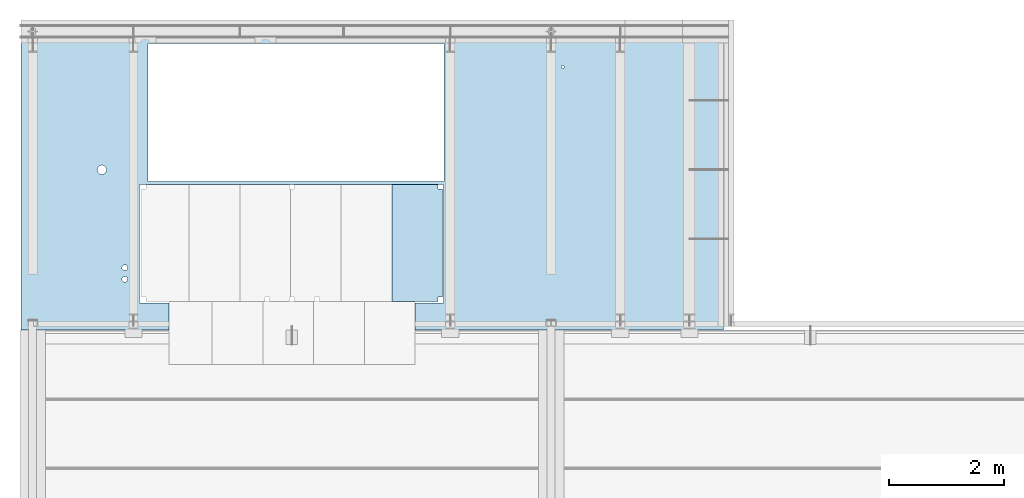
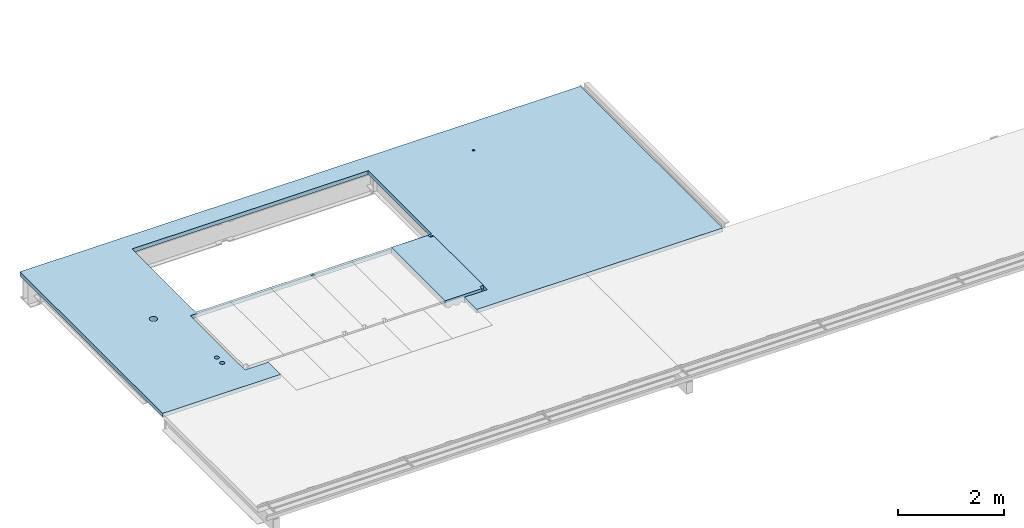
# One storey, part 12 of 13: 2 slabs.
"""IFC2X3 building model written with IfcOpenShell, lengths in millimetres."""

import ifcopenshell
import ifcopenshell.guid

model = None  # the IFC model being written
_history = None  # IfcOwnerHistory: only IFC2X3 demands one
_inside = {}  # id of a spatial element -> (the spatial element, [elements in it])
_under = {}  # id of a project, library or spatial element -> (it, [spatial elements below it])
_declared = {}  # id of a project -> (the project, [libraries it declares])
_typed = {}  # id of a type object -> (the type object, [elements of that type])
_made_of = {}  # id of a material, layer set ... -> (it, [elements and type objects made of it])


def new_model(schema):
    """Start an empty IFC model of exactly this schema.

    Asked for "IFC4X3", IfcOpenShell would pick the latest addendum, in which some entities
    have other attributes; the version numbers below select the first issue.
    IFC2X3 requires an IfcOwnerHistory on every rooted entity: one is made here for all.
    """
    global model, _history
    if schema == "IFC4X3":
        model = ifcopenshell.file(schema_version=(4, 3, 0, 0))
    else:
        model = ifcopenshell.file(schema=schema)
    _inside.clear()
    _under.clear()
    _declared.clear()
    _typed.clear()
    _made_of.clear()
    _history = None
    if model.schema == "IFC2X3":
        org = make("IfcOrganization", Name="unknown")
        user = make(
            "IfcPersonAndOrganization",
            ThePerson=make("IfcPerson", FamilyName="unknown"),
            TheOrganization=org,
        )
        app = make(
            "IfcApplication",
            ApplicationDeveloper=org,
            Version="unknown",
            ApplicationFullName="unknown",
            ApplicationIdentifier="unknown",
        )
        _history = make(
            "IfcOwnerHistory",
            OwningUser=user,
            OwningApplication=app,
            ChangeAction="ADDED",
            CreationDate=0,
        )
    return model


def make(cls, **values):
    """One entity of the class cls with the attributes given. An attribute that is None is left unset."""
    return model.create_entity(
        cls, **{name: value for name, value in values.items() if value is not None}
    )


def entity(cls, *values):
    """Any entity or typed value of the class cls, its attributes in the order of the schema. None: left unset."""
    e = model.create_entity(cls)
    for i, value in enumerate(values):
        if value is not None:
            e[i] = value
    return e


def rooted(cls, **values):
    """An entity with a GlobalId (a new one), such as an element, a storey or a relation."""
    return make(cls, GlobalId=ifcopenshell.guid.new(), OwnerHistory=_history, **values)


def si_unit(unit_type, name, prefix=None):
    """IfcSIUnit, for example si_unit("LENGTHUNIT", "METRE", prefix="MILLI")."""
    return make("IfcSIUnit", UnitType=unit_type, Prefix=prefix, Name=name)


def converted_unit(unit_type, name, factor, base, dimensions=None, offset=None):
    """IfcConversionBasedUnit, such as the inch: factor (a typed value) times the base unit."""
    return make(
        "IfcConversionBasedUnit"
        if offset is None
        else "IfcConversionBasedUnitWithOffset",
        ConversionOffset=offset,
        Dimensions=None
        if dimensions is None
        else entity("IfcDimensionalExponents", *dimensions),
        UnitType=unit_type,
        Name=name,
        ConversionFactor=make(
            "IfcMeasureWithUnit", ValueComponent=factor, UnitComponent=base
        ),
    )


def derived_unit(unit_type, elements):
    """IfcDerivedUnit: a product of units, each with its exponent."""
    return make(
        "IfcDerivedUnit",
        Elements=[
            make("IfcDerivedUnitElement", Unit=unit, Exponent=power)
            for unit, power in elements
        ],
        UnitType=unit_type,
    )


def assignment(units):
    """IfcUnitAssignment: the units of a project."""
    return None if units is None else make("IfcUnitAssignment", Units=units)


def point(xyz):
    """IfcCartesianPoint."""
    return None if xyz is None else make("IfcCartesianPoint", Coordinates=xyz)


def direction(xyz):
    """IfcDirection."""
    return None if xyz is None else make("IfcDirection", DirectionRatios=xyz)


def frame(location, z_axis=None, x_axis=None):
    """IfcAxis2Placement3D, a coordinate frame: its origin and axes. An axis left out is left unset."""
    return make(
        "IfcAxis2Placement3D",
        Location=point(location),
        Axis=direction(z_axis),
        RefDirection=direction(x_axis),
    )


def origin_with_axes():
    """The frame at (0, 0, 0) with the z axis (0, 0, 1) and the x axis (1, 0, 0) written out."""
    return frame((0.0, 0.0, 0.0), z_axis=(0.0, 0.0, 1.0), x_axis=(1.0, 0.0, 0.0))


def place(relative_to, where):
    """IfcLocalPlacement: puts the frame where relative to a parent placement (None: the world)."""
    return make(
        "IfcLocalPlacement", PlacementRelTo=relative_to, RelativePlacement=where
    )


def context(
    kind, dimensions, precision=None, world=None, true_north=None, identifier=None
):
    """IfcGeometricRepresentationContext, for example the 3D "Model" context."""
    return make(
        "IfcGeometricRepresentationContext",
        ContextIdentifier=identifier,
        ContextType=kind,
        CoordinateSpaceDimension=dimensions,
        Precision=precision,
        WorldCoordinateSystem=world,
        TrueNorth=true_north,
    )


def subcontext(parent, identifier, kind, view, scale=None):
    """IfcGeometricRepresentationSubContext, for example "Body" below "Model"."""
    return make(
        "IfcGeometricRepresentationSubContext",
        ContextIdentifier=identifier,
        ContextType=kind,
        ParentContext=parent,
        TargetScale=scale,
        TargetView=view,
    )


def project(units=None, contexts=None):
    """IfcProject with its units and contexts."""
    return rooted(
        "IfcProject",
        Name="project",
        RepresentationContexts=contexts,
        UnitsInContext=assignment(units),
    )


def spatial(cls, under=None, at=None, **own):
    """A site, building, storey or space (cls), placed at a placement, below another one or the project."""
    s = rooted(cls, ObjectPlacement=at, **own)
    if under is not None:
        _under.setdefault(under.id(), (under, []))[1].append(s)
    return s


def faces_of(points, faces, orient=None, outer=None):
    """IfcFace entities. A face is a list of loops; a loop is a list of indices into points, from 0.

    orient and outer hold one flag for each loop. By default every Orientation is true, the
    first loop of a face is its IfcFaceOuterBound and the others are IfcFaceBound.
    """
    made = []
    for i, loops in enumerate(faces):
        bounds = []
        for j, loop in enumerate(loops):
            is_outer = j == 0 if outer is None else outer[i][j]
            bounds.append(
                make(
                    "IfcFaceOuterBound" if is_outer else "IfcFaceBound",
                    Bound=make("IfcPolyLoop", Polygon=[points[k] for k in loop]),
                    Orientation=True if orient is None else orient[i][j],
                )
            )
        made.append(make("IfcFace", Bounds=bounds))
    return made


def faceted_brep(points, faces, orient=None, outer=None, voids=None):
    """IfcFacetedBrep: a solid bounded by flat faces; with voids (closed shells), ...WithVoids."""
    shared = [point(p) for p in points]
    hull = make("IfcClosedShell", CfsFaces=faces_of(shared, faces, orient, outer))
    if voids is None:
        return make("IfcFacetedBrep", Outer=hull)
    return make(
        "IfcFacetedBrepWithVoids",
        Outer=hull,
        Voids=[
            make(cls, CfsFaces=faces_of(shared, fs, o, b)) for cls, fs, o, b in voids
        ],
    )


def shape(context_of_items, identifier, shape_type, items):
    """IfcShapeRepresentation: the items that make up one representation, for example the "Body"."""
    return make(
        "IfcShapeRepresentation",
        ContextOfItems=context_of_items,
        RepresentationIdentifier=identifier,
        RepresentationType=shape_type,
        Items=items,
    )


def material(Name=None, Category=None):
    """IfcMaterial."""
    return make("IfcMaterial", Name=Name, Category=Category)


def made_of(thing, what):
    """Note that an element or type object is made of a material, layer set ...; save() writes the relation."""
    if what is not None:
        _made_of.setdefault(what.id(), (what, []))[1].append(thing)
    return thing


def type_object(cls, material=None, **own):
    """A type object (cls), such as IfcWallType, which elements share."""
    return made_of(rooted(cls, **own), material)


def element(
    cls,
    number,
    at=None,
    inside=None,
    cuts=None,
    type_object=None,
    material=None,
    context=None,
    identifier="Body",
    shape_type=None,
    held_by="IfcProductDefinitionShape",
    body=None,
    shapes=None,
    **own,
):
    """One element of the class cls, such as IfcWall. Its Tag is "e" and its number.

    at: its placement. inside: the storey or other place that contains it. cuts: it is an
    opening in that element (IfcRelVoidsElement). A single representation is given by context,
    identifier, shape_type and body (its items); several are given by shapes. held_by: the class
    of the entity that holds the representations. save() writes the other relations.
    """
    e = rooted(cls, Tag="e%d" % number, ObjectPlacement=at, **own)
    if body is not None:
        shapes = [shape(context, identifier, shape_type, body)]
    if shapes is not None:
        e.Representation = make(held_by, Representations=shapes)
    if inside is not None:
        _inside.setdefault(inside.id(), (inside, []))[1].append(e)
    if cuts is not None:
        rooted(
            "IfcRelVoidsElement", RelatingBuildingElement=cuts, RelatedOpeningElement=e
        )
    if type_object is not None:
        _typed.setdefault(type_object.id(), (type_object, []))[1].append(e)
    return made_of(e, material)


def aggregate(whole, parts):
    """IfcRelAggregates: a whole, such as a stair, and the parts it consists of."""
    return rooted("IfcRelAggregates", RelatingObject=whole, RelatedObjects=parts)


def save(model, path):
    """Write the relations noted so far, then the file.

    IfcRelAggregates (storeys below a building ...), IfcRelContainedInSpatialStructure (elements
    in a storey), IfcRelDefinesByType, IfcRelAssociatesMaterial and IfcRelDeclares: one each for
    every whole, place, type object, material and project.
    """
    for whole, parts in _under.values():
        aggregate(whole, parts)
    for where, things in _inside.values():
        rooted(
            "IfcRelContainedInSpatialStructure",
            RelatedElements=things,
            RelatingStructure=where,
        )
    for kind, things in _typed.values():
        rooted("IfcRelDefinesByType", RelatedObjects=things, RelatingType=kind)
    for what, things in _made_of.values():
        rooted("IfcRelAssociatesMaterial", RelatedObjects=things, RelatingMaterial=what)
    for by, libraries in _declared.values():
        rooted("IfcRelDeclares", RelatingContext=by, RelatedDefinitions=libraries)
    model.write(path)


model = new_model("IFC2X3")

# Units and contexts
model_context = context("Model", 3, precision=0.01, world=frame((0.0, 4.29681676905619e-09, 0.0)), true_north=direction((4.01073788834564e-13, 1.0)))
plan_context = context("Plan", 3, precision=0.01, world=frame((0.0, 4.29681676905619e-09, 0.0)), true_north=direction((4.01073788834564e-13, 1.0)))
body_context = subcontext(model_context, "Body", "Model", "MODEL_VIEW")
ifc_project = project(units=[converted_unit("PLANEANGLEUNIT", "DEGREE", entity("IfcPositiveLengthMeasure", 0.0174532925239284), si_unit("PLANEANGLEUNIT", "RADIAN"), dimensions=[0, 0, 0, 0, 0, 0, 0]), si_unit("AREAUNIT", "SQUARE_METRE"), si_unit("LENGTHUNIT", "METRE", prefix="MILLI"), si_unit("MASSUNIT", "GRAM", prefix="KILO"), si_unit("POWERUNIT", "WATT"), si_unit("PRESSUREUNIT", "PASCAL", prefix="KILO"), si_unit("FORCEUNIT", "NEWTON", prefix="KILO"), si_unit("ELECTRICVOLTAGEUNIT", "VOLT"), si_unit("ELECTRICCURRENTUNIT", "AMPERE"), si_unit("THERMODYNAMICTEMPERATUREUNIT", "DEGREE_CELSIUS"), si_unit("TIMEUNIT", "SECOND"), si_unit("VOLUMEUNIT", "CUBIC_METRE"), derived_unit("LINEARVELOCITYUNIT", [(si_unit("LENGTHUNIT", "METRE"), 1), (si_unit("TIMEUNIT", "SECOND"), -1)]), derived_unit("VOLUMETRICFLOWRATEUNIT", [(si_unit("VOLUMEUNIT", "CUBIC_METRE"), 1), (si_unit("TIMEUNIT", "SECOND"), -1)]), derived_unit("THERMALTRANSMITTANCEUNIT", [(si_unit("POWERUNIT", "WATT"), 1), (si_unit("THERMODYNAMICTEMPERATUREUNIT", "KELVIN"), -1), (si_unit("AREAUNIT", "SQUARE_METRE"), -1)]), derived_unit("SOUNDPRESSUREUNIT", [(si_unit("PRESSUREUNIT", "PASCAL"), 1)])], contexts=[model_context, plan_context])

# Site, building, storey
site_placement = place(None, frame((0.0, -4.29681676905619e-09, 0.0), z_axis=(0.0, 0.0, 1.0), x_axis=(1.0, 0.0, 0.0)))
site = spatial("IfcSite", under=ifc_project, at=site_placement, Name="Gardermoen", CompositionType="ELEMENT")
building_placement = place(site_placement, frame((0.0, 4.29681676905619e-09, 0.0), z_axis=(0.0, 0.0, 1.0), x_axis=(1.0, 0.0, 0.0)))
building = spatial("IfcBuilding", under=site, at=building_placement, Name="TG", CompositionType="ELEMENT")
storey_placement = place(building_placement, origin_with_axes())
storey = spatial("IfcBuildingStorey", under=building, at=storey_placement, Name="G", CompositionType="ELEMENT", Elevation=0.0)

# Slabs
slab_type_1 = type_object("IfcSlabType", Name="90*14990", PredefinedType="NOTDEFINED")
slab_1_placement = place(storey_placement, frame((333994.999765, 480879.98877, 213615.0), z_axis=(-1.0, 0.0, 0.0), x_axis=(0.0, -1.0, 0.0)))
element("IfcSlab", 1, at=slab_1_placement, inside=storey, type_object=slab_type_1, Name="PÅSTØP", ObjectType="90*14990", PredefinedType="FLOOR", context=body_context, shape_type="Brep", body=[
    faceted_brep([(16049.2720323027, -45.0, 10755.0001604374), (16049.2720323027, 45.0, 10755.0001604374), (16057.264066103, 45.0, 10774.2946368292), (16057.264066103, -45.0, 10774.2946368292), (16059.9899999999, 45.0, 10795.0001604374), (16059.9899999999, -45.0, 10795.0001604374), (16057.264066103, 45.0, 10815.7056840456), (16057.264066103, -45.0, 10815.7056840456), (16049.2720323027, 45.0, 10835.0001604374), (16049.2720323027, -45.0, 10835.0001604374), (16036.5585424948, 45.0, 10851.5687029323), (16036.5585424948, -45.0, 10851.5687029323), (16019.9899999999, 45.0, 10864.2821927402), (16019.9899999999, -45.0, 10864.2821927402), (16000.6955236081, 45.0, 10872.2742265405), (16000.6955236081, -45.0, 10872.2742265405), (15979.9899999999, 45.0, 10875.0001604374), (15979.9899999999, -45.0, 10875.0001604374), (15959.2844763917, 45.0, 10872.2742265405), (15959.2844763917, -45.0, 10872.2742265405), (15939.9899999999, 45.0, 10864.2821927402), (15939.9899999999, -45.0, 10864.2821927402), (15923.421457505, 45.0, 10851.5687029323), (15923.421457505, -45.0, 10851.5687029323), (15910.7079676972, 45.0, 10835.0001604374), (15910.7079676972, -45.0, 10835.0001604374), (15902.7159338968, 45.0, 10815.7056840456), (15902.7159338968, -45.0, 10815.7056840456), (15899.9899999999, 45.0, 10795.0001604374), (15899.9899999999, -45.0, 10795.0001604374), (15902.7159338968, 45.0, 10774.2946368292), (15902.7159338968, -45.0, 10774.2946368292), (15910.7079676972, 45.0, 10755.0001604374), (15910.7079676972, -45.0, 10755.0001604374), (15923.421457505, 45.0, 10738.4316179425), (15923.421457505, -45.0, 10738.4316179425), (15939.9899999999, 45.0, 10725.7181281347), (15939.9899999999, -45.0, 10725.7181281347), (15959.2844763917, 45.0, 10717.7260943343), (15959.2844763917, -45.0, 10717.7260943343), (15979.9899999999, 45.0, 10715.0001604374), (15979.9899999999, -45.0, 10715.0001604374), (16000.6955236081, 45.0, 10717.7260943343), (16000.6955236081, -45.0, 10717.7260943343), (16019.9899999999, 45.0, 10725.7181281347), (16019.9899999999, -45.0, 10725.7181281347), (16036.5585424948, 45.0, 10738.4316179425), (16036.5585424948, -45.0, 10738.4316179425), (18759.9761291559, -45.0, 12200.249764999), (18759.974972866, 45.0, 12200.249764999), (18759.9753077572, 45.0, 9629.99979434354), (18759.9775293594, -45.0, 9629.99979434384), (13379.9887700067, 45.0, 0.0), (13379.9887700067, -45.0, 0.0), (18759.9765625, -45.0, 0.0), (18759.9765625, 45.0, 0.0), (18759.975864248, -45.0, 5359.00000796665), (18759.975864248, 45.0, 5359.00000796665), (18294.9733789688, -45.0, 5358.99808535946), (18294.9733789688, 45.0, 5358.99808535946), (18294.9733789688, -45.0, 4859.99051700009), (18294.9733789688, 45.0, 4859.99051700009), (16234.985586, -45.0, 4859.99051700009), (16234.985586, 45.0, 4859.99051700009), (16234.985586, -45.0, 10139.9905170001), (16234.985586, 45.0, 10139.9905170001), (18294.9733789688, -45.0, 10139.9905170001), (18294.9733789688, 45.0, 10139.9905170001), (18294.9733789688, -45.0, 9629.99979434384), (18294.9733789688, 45.0, 9629.99979434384), (16185.3637689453, -45.0, 9995.2647472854), (16185.3637689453, 45.0, 9995.2647472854), (13786.0107085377, 45.0, 9995.26445366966), (13786.0107085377, -45.0, 9995.26445366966), (13785.1592155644, 45.0, 4851.25554033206), (13785.1592155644, -45.0, 4851.25554033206), (16184.5122758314, 45.0, 4851.25554030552), (16184.5122758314, -45.0, 4851.25554030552), (14219.9893542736, -45.0, 2794.99541461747), (14219.9893542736, 45.0, 2794.99541461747), (14218.0863425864, 45.0, 2804.5625004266), (14218.0863425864, -45.0, 2804.5625004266), (14218.0863425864, -45.0, 2785.42832880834), (14218.0863425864, 45.0, 2785.42832880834), (14212.6670238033, -45.0, 2777.31774508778), (14212.6670238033, 45.0, 2777.31774508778), (14204.5564400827, -45.0, 2771.89842630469), (14204.5564400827, 45.0, 2771.89842630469), (14194.9893542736, -45.0, 2769.99541461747), (14194.9893542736, 45.0, 2769.99541461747), (14185.4222684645, -45.0, 2771.89842630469), (14185.4222684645, 45.0, 2771.89842630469), (14177.3116847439, -45.0, 2777.31774508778), (14177.3116847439, 45.0, 2777.31774508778), (14171.8923659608, -45.0, 2785.42832880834), (14171.8923659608, 45.0, 2785.42832880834), (14169.9893542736, -45.0, 2794.99541461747), (14169.9893542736, 45.0, 2794.99541461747), (14171.8923659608, -45.0, 2804.5625004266), (14171.8923659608, 45.0, 2804.5625004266), (14177.3116847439, -45.0, 2812.67308414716), (14177.3116847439, 45.0, 2812.67308414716), (14185.4222684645, -45.0, 2818.09240293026), (14185.4222684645, 45.0, 2818.09240293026), (14194.9893542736, -45.0, 2819.99541461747), (14194.9893542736, 45.0, 2819.99541461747), (14204.5564400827, -45.0, 2818.09240293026), (14204.5564400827, 45.0, 2818.09240293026), (14212.6670238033, -45.0, 2812.67308414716), (14212.6670238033, 45.0, 2812.67308414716), (17929.9899999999, -45.0, 10395.0001604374), (17929.9899999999, 45.0, 10395.0001604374), (17927.5428258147, 45.0, 10410.4510101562), (17927.5428258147, -45.0, 10410.4510101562), (17927.5428258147, -45.0, 10379.5493107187), (17927.5428258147, 45.0, 10379.5493107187), (17920.4408497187, -45.0, 10365.6108978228), (17920.4408497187, 45.0, 10365.6108978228), (17909.3792626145, -45.0, 10354.5493107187), (17909.3792626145, 45.0, 10354.5493107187), (17895.4408497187, -45.0, 10347.4473346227), (17895.4408497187, 45.0, 10347.4473346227), (17879.9899999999, -45.0, 10345.0001604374), (17879.9899999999, 45.0, 10345.0001604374), (17864.5391502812, -45.0, 10347.4473346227), (17864.5391502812, 45.0, 10347.4473346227), (17850.6007373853, -45.0, 10354.5493107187), (17850.6007373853, 45.0, 10354.5493107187), (17839.5391502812, -45.0, 10365.6108978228), (17839.5391502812, 45.0, 10365.6108978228), (17832.4371741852, -45.0, 10379.5493107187), (17832.4371741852, 45.0, 10379.5493107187), (17829.9899999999, -45.0, 10395.0001604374), (17829.9899999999, 45.0, 10395.0001604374), (17832.4371741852, -45.0, 10410.4510101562), (17832.4371741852, 45.0, 10410.4510101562), (17839.5391502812, -45.0, 10424.389423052), (17839.5391502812, 45.0, 10424.389423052), (17850.6007373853, -45.0, 10435.4510101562), (17850.6007373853, 45.0, 10435.4510101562), (17864.5391502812, -45.0, 10442.5529862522), (17864.5391502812, 45.0, 10442.5529862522), (17879.9899999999, -45.0, 10445.0001604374), (17879.9899999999, 45.0, 10445.0001604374), (17895.4408497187, -45.0, 10442.5529862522), (17895.4408497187, 45.0, 10442.5529862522), (17909.3792626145, -45.0, 10435.4510101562), (17909.3792626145, 45.0, 10435.4510101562), (17920.4408497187, -45.0, 10424.389423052), (17920.4408497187, 45.0, 10424.389423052), (13379.9887700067, -45.0, 12200.249764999), (17727.5428258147, -45.0, 10379.5493107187), (17729.9899999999, -45.0, 10395.0001604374), (17727.5428258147, -45.0, 10410.4510101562), (17720.4408497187, -45.0, 10424.389423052), (17709.3792626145, -45.0, 10435.4510101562), (17695.4408497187, -45.0, 10442.5529862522), (17679.9899999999, -45.0, 10445.0001604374), (17664.5391502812, -45.0, 10442.5529862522), (17650.6007373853, -45.0, 10435.4510101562), (17639.5391502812, -45.0, 10424.389423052), (17632.4371741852, -45.0, 10410.4510101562), (17629.9899999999, -45.0, 10395.0001604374), (17632.4371741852, -45.0, 10379.5493107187), (17639.5391502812, -45.0, 10365.6108978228), (17650.6007373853, -45.0, 10354.5493107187), (17664.5391502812, -45.0, 10347.4473346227), (17679.9899999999, -45.0, 10345.0001604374), (17695.4408497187, -45.0, 10347.4473346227), (17709.3792626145, -45.0, 10354.5493107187), (17720.4408497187, -45.0, 10365.6108978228), (17727.5428258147, 45.0, 10410.4510101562), (17720.4408497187, 45.0, 10424.389423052), (17729.9899999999, 45.0, 10395.0001604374), (17727.5428258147, 45.0, 10379.5493107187), (17720.4408497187, 45.0, 10365.6108978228), (17709.3792626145, 45.0, 10354.5493107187), (17695.4408497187, 45.0, 10347.4473346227), (17679.9899999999, 45.0, 10345.0001604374), (17664.5391502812, 45.0, 10347.4473346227), (17650.6007373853, 45.0, 10354.5493107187), (17639.5391502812, 45.0, 10365.6108978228), (17632.4371741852, 45.0, 10379.5493107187), (17629.9899999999, 45.0, 10395.0001604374), (17632.4371741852, 45.0, 10410.4510101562), (17639.5391502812, 45.0, 10424.389423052), (17650.6007373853, 45.0, 10435.4510101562), (17664.5391502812, 45.0, 10442.5529862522), (17679.9899999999, 45.0, 10445.0001604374), (17695.4408497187, 45.0, 10442.5529862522), (17709.3792626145, 45.0, 10435.4510101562), (13379.9887700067, 45.0, 12200.249764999)], [[[0, 1, 2, 3]], [[3, 2, 4, 5]], [[5, 4, 6, 7]], [[7, 6, 8, 9]], [[9, 8, 10, 11]], [[11, 10, 12, 13]], [[13, 12, 14, 15]], [[15, 14, 16, 17]], [[17, 16, 18, 19]], [[19, 18, 20, 21]], [[21, 20, 22, 23]], [[23, 22, 24, 25]], [[25, 24, 26, 27]], [[27, 26, 28, 29]], [[29, 28, 30, 31]], [[31, 30, 32, 33]], [[33, 32, 34, 35]], [[35, 34, 36, 37]], [[37, 36, 38, 39]], [[39, 38, 40, 41]], [[41, 40, 42, 43]], [[43, 42, 44, 45]], [[45, 44, 46, 47]], [[47, 46, 1, 0]], [[48, 49, 50, 51]], [[52, 53, 54, 55]], [[56, 57, 55, 54]], [[58, 59, 57, 56]], [[60, 61, 59, 58]], [[62, 63, 61, 60]], [[64, 65, 63, 62]], [[66, 67, 65, 64]], [[68, 69, 67, 66]], [[50, 69, 68, 51]], [[70, 71, 72, 73]], [[73, 72, 74, 75]], [[75, 74, 76, 77]], [[77, 76, 71, 70]], [[78, 79, 80, 81]], [[82, 83, 79, 78]], [[84, 85, 83, 82]], [[86, 87, 85, 84]], [[88, 89, 87, 86]], [[90, 91, 89, 88]], [[92, 93, 91, 90]], [[94, 95, 93, 92]], [[96, 97, 95, 94]], [[98, 99, 97, 96]], [[100, 101, 99, 98]], [[102, 103, 101, 100]], [[104, 105, 103, 102]], [[106, 107, 105, 104]], [[108, 109, 107, 106]], [[81, 80, 109, 108]], [[110, 111, 112, 113]], [[114, 115, 111, 110]], [[116, 117, 115, 114]], [[118, 119, 117, 116]], [[120, 121, 119, 118]], [[122, 123, 121, 120]], [[124, 125, 123, 122]], [[126, 127, 125, 124]], [[128, 129, 127, 126]], [[130, 131, 129, 128]], [[132, 133, 131, 130]], [[134, 135, 133, 132]], [[136, 137, 135, 134]], [[138, 139, 137, 136]], [[140, 141, 139, 138]], [[142, 143, 141, 140]], [[144, 145, 143, 142]], [[146, 147, 145, 144]], [[148, 149, 147, 146]], [[113, 112, 149, 148]], [[53, 150, 48, 51, 68, 66, 64, 62, 60, 58, 56, 54], [3, 5, 7, 9, 11, 13, 15, 17, 19, 21, 23, 25, 27, 29, 31, 33, 35, 37, 39, 41, 43, 45, 47, 0], [151, 152, 153, 154, 155, 156, 157, 158, 159, 160, 161, 162, 163, 164, 165, 166, 167, 168, 169, 170], [114, 110, 113, 148, 146, 144, 142, 140, 138, 136, 134, 132, 130, 128, 126, 124, 122, 120, 118, 116], [82, 78, 81, 108, 106, 104, 102, 100, 98, 96, 94, 92, 90, 88, 86, 84], [77, 70, 73, 75]], [[153, 171, 172, 154]], [[152, 173, 171, 153]], [[151, 174, 173, 152]], [[170, 175, 174, 151]], [[169, 176, 175, 170]], [[168, 177, 176, 169]], [[167, 178, 177, 168]], [[166, 179, 178, 167]], [[165, 180, 179, 166]], [[164, 181, 180, 165]], [[163, 182, 181, 164]], [[162, 183, 182, 163]], [[161, 184, 183, 162]], [[160, 185, 184, 161]], [[159, 186, 185, 160]], [[158, 187, 186, 159]], [[157, 188, 187, 158]], [[156, 189, 188, 157]], [[155, 190, 189, 156]], [[154, 172, 190, 155]], [[49, 191, 52, 55, 57, 59, 61, 63, 65, 67, 69, 50], [6, 4, 2, 1, 46, 44, 42, 40, 38, 36, 34, 32, 30, 28, 26, 24, 22, 20, 18, 16, 14, 12, 10, 8], [171, 173, 174, 175, 176, 177, 178, 179, 180, 181, 182, 183, 184, 185, 186, 187, 188, 189, 190, 172], [112, 111, 115, 117, 119, 121, 123, 125, 127, 129, 131, 133, 135, 137, 139, 141, 143, 145, 147, 149], [80, 79, 83, 85, 87, 89, 91, 93, 95, 97, 99, 101, 103, 105, 107, 109], [72, 71, 76, 74]], [[150, 53, 52, 191]], [[191, 49, 48, 150]]], orient=[[False], [False], [False], [False], [False], [False], [False], [False], [False], [False], [False], [False], [False], [False], [False], [False], [False], [False], [False], [False], [False], [False], [False], [False], [False], [False], [False], [False], [False], [False], [False], [False], [False], [False], [False], [False], [False], [False], [False], [False], [False], [False], [False], [False], [False], [False], [False], [False], [False], [False], [False], [False], [False], [False], [False], [False], [False], [False], [False], [False], [False], [False], [False], [False], [False], [False], [False], [False], [False], [False], [False], [False], [False], [False], [False, False, False, False, False, False], [False], [False], [False], [False], [False], [False], [False], [False], [False], [False], [False], [False], [False], [False], [False], [False], [False], [False], [False], [False], [False, False, False, False, False, False], [False], [False]]),
])
ifc_material = material(Name="CONCRETE/C35/45")
slab_type_2 = type_object("IfcSlabType", Name="PLNJABE155*40*42.6*71*32.5", PredefinedType="NOTDEFINED")
slab_2_placement = place(storey_placement, frame((328675.0017314, 464644.999534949, 213599.8), z_axis=(0.0, 0.0, 1.0), x_axis=(0.0, -1.0, 0.0)))
element("IfcSlab", 2, at=slab_2_placement, inside=storey, type_object=slab_type_2, material=ifc_material, Name="PLASSTØPTDEKKE", ObjectType="PLNJABE155*40*42.6*71*32.5", PredefinedType="FLOOR", context=body_context, shape_type="Brep", body=[
    faceted_brep([(1950.00378661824, 359.995861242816, 98.7999999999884), (1950.00378661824, 359.995861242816, -98.7999999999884), (1950.00409511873, 387.499999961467, -98.7999999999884), (1950.00445965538, 419.999999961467, -56.2000000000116), (1950.0046839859, 439.999999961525, -56.2000000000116), (1950.0046839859, 439.999999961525, 98.7999999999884), (2030.00378661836, 359.99593492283, 98.7999999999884), (2030.00205200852, 359.99593492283, -98.7999999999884), (79.9993051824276, 439.999999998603, 98.7999999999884), (79.9993051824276, 439.999999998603, -56.2000000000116), (79.9992797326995, 419.999999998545, -56.2000000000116), (79.9992383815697, 387.499999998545, -98.7999999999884), (79.9992033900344, 359.998345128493, -98.7999999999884), (79.9992033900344, 359.998345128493, 98.7999999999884), (7.04312697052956e-09, 359.998271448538, -98.7999999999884), (7.04312697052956e-09, 359.998271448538, 98.7999999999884), (6.17001205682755e-09, 316.500000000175, -98.7999999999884), (5.5297277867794e-09, 284.000000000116, -56.2000000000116), (4.77302819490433e-09, 244.000000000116, -56.2000000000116), (4.13274392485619e-09, 211.500000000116, -98.7999999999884), (2.6775524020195e-09, 140.500000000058, -98.7999999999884), (2.03726813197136e-09, 108.000000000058, -56.2000000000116), (1.28056854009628e-09, 68.0000000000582, -56.2000000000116), (6.40284270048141e-10, 35.5, -98.7999999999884), (-8.14907252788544e-10, -35.5, -98.7999999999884), (-1.39698386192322e-09, -68.0, -56.2000000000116), (-2.21189111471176e-09, -108.000000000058, -56.2000000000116), (-2.8521753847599e-09, -140.500000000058, -98.7999999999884), (-4.30736690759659e-09, -211.500000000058, -98.7999999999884), (-4.88944351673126e-09, -244.000000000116, -56.2000000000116), (-5.70435076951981e-09, -284.000000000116, -56.2000000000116), (-6.34463503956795e-09, -316.500000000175, -98.7999999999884), (-7.79982656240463e-09, -387.500000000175, -98.7999999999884), (-8.44011083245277e-09, -420.000000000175, -56.2000000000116), (-8.78935679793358e-09, -440.000000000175, -56.2000000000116), (-8.78935679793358e-09, -440.000000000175, 98.7999999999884), (2030.00205200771, 316.499999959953, -98.7999999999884), (2030.00205200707, 283.999999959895, -56.2000000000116), (2030.00205200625, 243.999999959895, -56.2000000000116), (2030.00205200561, 211.499999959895, -98.7999999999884), (2030.00205200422, 140.499999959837, -98.7999999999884), (2030.00205200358, 107.999999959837, -56.2000000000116), (2030.00205200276, 67.9999999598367, -56.2000000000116), (2030.00205200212, 35.4999999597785, -98.7999999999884), (2030.00205200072, -35.5000000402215, -98.7999999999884), (2030.00205200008, -68.0000000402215, -56.2000000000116), (2030.00205199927, -108.00000004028, -56.2000000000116), (2030.00205199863, -140.50000004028, -98.7999999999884), (2030.00205199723, -211.50000004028, -98.7999999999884), (2030.00205199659, -244.000000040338, -56.2000000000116), (2030.00205199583, -284.000000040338, -56.2000000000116), (2030.00205199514, -316.500000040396, -98.7999999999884), (2030.00205199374, -387.500000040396, -98.7999999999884), (2030.0020519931, -420.000000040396, -56.2000000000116), (2030.00205199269, -440.000000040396, -56.2000000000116), (2030.00205199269, -440.000000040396, 98.7999999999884)], [[[0, 1, 2, 3, 4, 5]], [[6, 7, 1, 0]], [[8, 9, 10, 11, 12, 13]], [[13, 12, 14, 15]], [[16, 17, 18, 19, 20, 21, 22, 23, 24, 25, 26, 27, 28, 29, 30, 31, 32, 33, 34, 35, 15, 14]], [[17, 16, 36, 37]], [[18, 17, 37, 38]], [[19, 18, 38, 39]], [[20, 19, 39, 40]], [[21, 20, 40, 41]], [[22, 21, 41, 42]], [[23, 22, 42, 43]], [[24, 23, 43, 44]], [[25, 24, 44, 45]], [[26, 25, 45, 46]], [[27, 26, 46, 47]], [[28, 27, 47, 48]], [[29, 28, 48, 49]], [[30, 29, 49, 50]], [[31, 30, 50, 51]], [[32, 31, 51, 52]], [[33, 32, 52, 53]], [[34, 33, 53, 54]], [[35, 34, 54, 55]], [[5, 8, 13, 15, 35, 55, 6, 0]], [[9, 8, 5, 4]], [[10, 9, 4, 3]], [[11, 10, 3, 2]], [[36, 16, 14, 12, 11, 2, 1, 7]], [[55, 54, 53, 52, 51, 50, 49, 48, 47, 46, 45, 44, 43, 42, 41, 40, 39, 38, 37, 36, 7, 6]]]),
])

save(model, "model.ifc")
